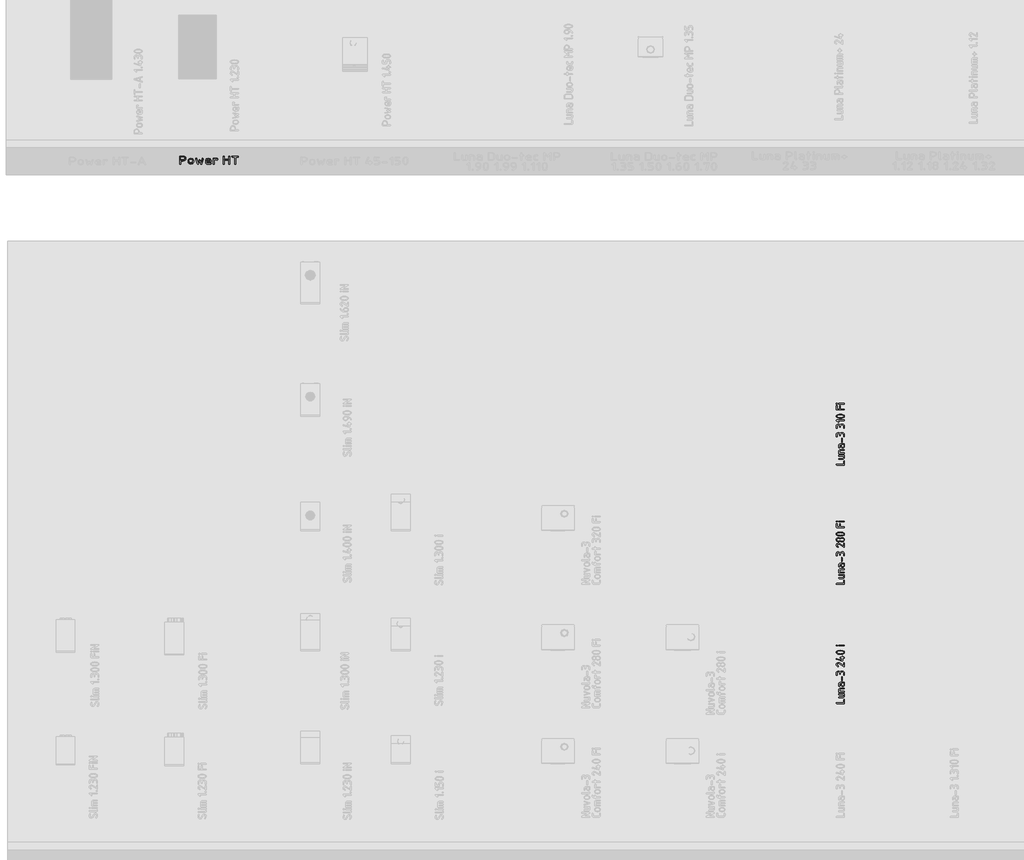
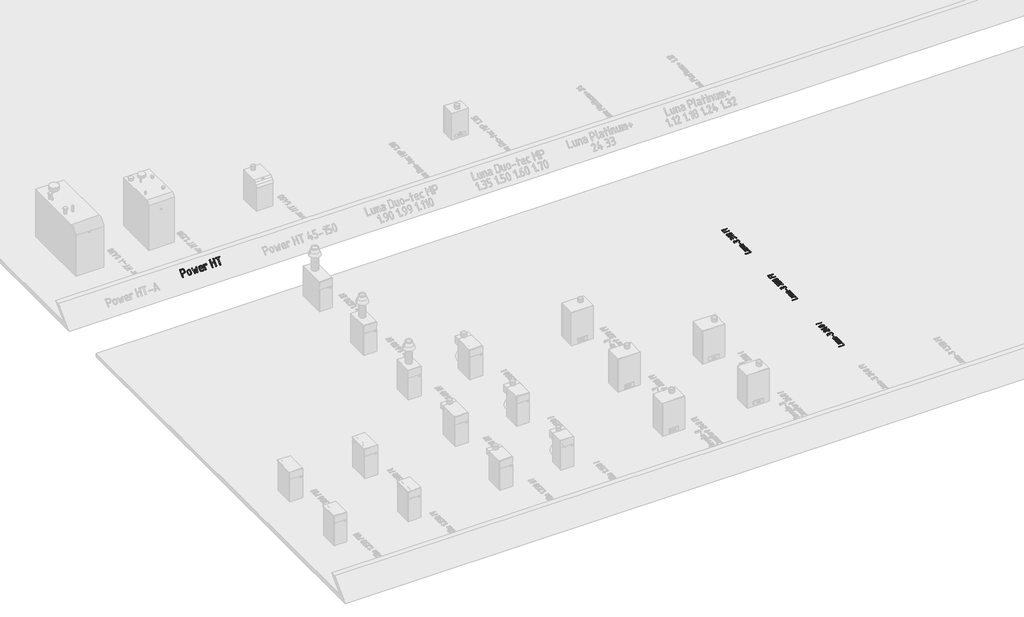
# One storey, part 12 of 37: 4 proxies.
"""IFC4 building model written with IfcOpenShell, lengths in millimetres."""

from ifc_helpers import new_model, si_unit, frame, origin, origin_with_axes, place, context, project, spatial, polyline, outline, extrude, element, save

model = new_model("IFC4")

# Units and contexts
model_context = context("Model", 3, world=origin())
ifc_project = project(units=[si_unit("LENGTHUNIT", "METRE", prefix="MILLI")], contexts=[model_context])

# Site, building, storey
site = spatial("IfcSite", under=ifc_project)
building = spatial("IfcBuilding", under=site)
storey = spatial("IfcBuildingStorey", under=building, Name="01_Стартовый вид_Площадка", Elevation=0.0)

# Proxies
placement = place(None, origin())
element("IfcBuildingElementProxy", 1, Name="150 мм", ObjectType="150 мм", at=placement, inside=storey, context=model_context, shape_type="SweptSolid", body=[
    extrude(outline(polyline([(13086.8818775, -15038.8871108), (13081.2187379, -15036.9694339), (13079.3310247, -15031.2164032), (13081.20875, -15025.4633725), (13086.8419259, -15023.5456956), (13214.846859, -15023.5456956), (13214.846859, -14971.0492905), (13216.7645359, -14965.4161146), (13222.5175666, -14963.5383893), (13228.2705973, -14965.4161146), (13230.1882742, -14971.0492905), (13230.1882742, -15031.2164032), (13228.300561, -15036.9694339), (13222.6374214, -15038.8871108), (13086.8818775, -15038.8871108)])), origin_with_axes(), (0.0, 0.0, 1.0), 10.0),
    extrude(outline(polyline([(13132.8262199, -14859.9039335), (13222.7173246, -14859.9039335), (13228.3205368, -14861.761683), (13230.1882742, -14867.3349315), (13230.1882742, -14904.4100182), (13228.0208998, -14915.9060917), (13221.5187765, -14925.4645125), (13211.8604767, -14931.9067083), (13200.2245726, -14934.0541069), (13132.8262199, -14934.0541069), (13127.2230077, -14932.13643), (13125.3552703, -14926.3833993), (13127.2230077, -14920.6303686), (13132.8262199, -14918.7126917), (13199.9449114, -14918.7126917), (13210.4322069, -14914.4378703), (13214.846859, -14904.2102602), (13214.846859, -14875.2453487), (13132.8262199, -14875.2453487), (13127.2230077, -14873.3276718), (13125.3552703, -14867.5746411), (13127.2230077, -14861.8216104), (13132.8262199, -14859.9039335)])), origin_with_axes(), (0.0, 0.0, 1.0), 10.0),
    extrude(outline(polyline([(13222.7173246, -14829.2211031), (13132.8262199, -14829.2211031), (13127.2230077, -14827.3633536), (13125.3552703, -14821.7901051), (13125.3552703, -14784.7150184), (13127.5226447, -14773.2189449), (13134.024768, -14763.6605241), (13143.6830678, -14757.2183282), (13155.3189719, -14755.0709296), (13222.7173246, -14755.0709296), (13228.3205368, -14756.9886065), (13230.1882742, -14762.7416372), (13228.3205368, -14768.4946679), (13222.7173246, -14770.4123448), (13155.5986331, -14770.4123448), (13144.9914827, -14774.5872872), (13140.6966855, -14784.9147764), (13140.6966855, -14813.8796879), (13222.7173246, -14813.8796879), (13228.3205368, -14815.7973648), (13230.1882742, -14821.5503955), (13228.3205368, -14827.3034262), (13222.7173246, -14829.2211031)])), origin_with_axes(), (0.0, 0.0, 1.0), 10.0),
    extrude(outline(polyline([(13230.1882742, -14695.5829941), (13227.9659663, -14707.1989224), (13221.2990427, -14716.877198), (13211.4060272, -14723.409285), (13199.5054438, -14725.5866473), (13184.0441738, -14721.5914871), (13172.6280035, -14710.8345182), (13168.8226134, -14695.5829941), (13168.8226134, -14665.579341), (13154.7596494, -14665.579341), (13144.7517731, -14669.894114), (13140.6966855, -14680.5611918), (13140.6966855, -14710.5648449), (13138.7790086, -14716.1980208), (13133.0259779, -14718.0757461), (13127.2729472, -14716.1980208), (13125.3552703, -14710.5648449), (13125.3552703, -14680.5611918), (13127.5226447, -14668.8803421), (13134.024768, -14659.0872056), (13143.6830678, -14652.4502457), (13155.3189719, -14650.2379258), (13222.7173246, -14650.2379258), (13228.3205368, -14652.1556027), (13230.1882742, -14657.9086334), (13230.1882742, -14695.5829941)]), holes=[polyline([(13184.1640286, -14665.579341), (13184.1640286, -14695.5829941), (13188.638608, -14706.1901445), (13199.5054438, -14710.5648449), (13210.3123521, -14706.1302171), (13214.846859, -14695.5829941), (13214.846859, -14665.579341), (13184.1640286, -14665.579341)])]), origin_with_axes(), (0.0, 0.0, 1.0), 10.0),
    extrude(outline(polyline([(13191.8347362, -14552.3964523), (13191.8347362, -14612.4037586), (13189.9170593, -14618.0369345), (13184.1640286, -14619.9146598), (13178.4109979, -14618.0369345), (13176.493321, -14612.4037586), (13176.493321, -14552.3964523), (13178.4109979, -14546.7632764), (13184.1640286, -14544.8855511), (13189.9170593, -14546.7632764), (13191.8347362, -14552.3964523)])), origin_with_axes(), (0.0, 0.0, 1.0), 10.0),
    extrude(outline(polyline([(13156.0381007, -14478.4060852), (13156.0381007, -14493.387936), (13154.1204238, -14499.0211119), (13148.3673931, -14500.8988372), (13142.6143624, -14499.0211119), (13140.6966855, -14493.387936), (13140.6966855, -14478.4060852), (13139.0237122, -14469.7016299), (13134.0047922, -14462.4454202), (13126.5787881, -14457.546355), (13117.6845627, -14455.9133333), (13108.8402768, -14457.5613369), (13101.4042849, -14462.5053476), (13096.3554012, -14469.7765392), (13094.6724399, -14478.4060852), (13094.6724399, -14508.4097384), (13092.754763, -14514.0429143), (13087.0017323, -14515.9206396), (13081.2487016, -14514.0429143), (13079.3310247, -14508.4097384), (13079.3310247, -14478.4060852), (13082.1476127, -14463.9386113), (13090.5973765, -14451.6984393), (13103.002349, -14443.3535484), (13117.6845627, -14440.5719181), (13134.8837274, -14444.3273687), (13148.3673931, -14455.5937205), (13161.4415549, -14444.3273687), (13178.1313367, -14440.5719181), (13192.9933326, -14440.5719181), (13207.3059941, -14443.3685302), (13219.3214384, -14451.7583667), (13227.4715652, -14464.0135206), (13230.1882742, -14478.4060852), (13230.1882742, -14508.4097384), (13228.2705973, -14514.0429143), (13222.5175666, -14515.9206396), (13216.7645359, -14514.0429143), (13214.846859, -14508.4097384), (13214.846859, -14478.4060852), (13213.2438009, -14469.7016299), (13208.4346268, -14462.4454202), (13201.3182477, -14457.546355), (13192.7935746, -14455.9133333), (13178.0913851, -14455.9133333), (13169.6166515, -14457.5613369), (13162.4902844, -14462.5053476), (13157.6511466, -14469.7765392), (13156.0381007, -14478.4060852)])), origin_with_axes(), (0.0, 0.0, 1.0), 10.0),
    extrude(outline(polyline([(13079.3310247, -14321.5960471), (13082.0826913, -14307.1685248), (13090.3376911, -14295.0482075), (13102.49796, -14286.8231714), (13116.9654339, -14284.0814927), (13127.7623543, -14285.7894237), (13138.6591538, -14290.9132167), (13214.846859, -14338.175962), (13214.846859, -14291.5923939), (13216.7645359, -14285.959218), (13222.5175666, -14284.0814927), (13228.2705973, -14285.959218), (13230.1882742, -14291.5923939), (13230.1882742, -14351.5997002), (13228.3105489, -14357.2328761), (13222.677373, -14359.1106014), (13218.3226484, -14357.8321502), (13129.7099949, -14302.8587457), (13117.2450951, -14299.1032951), (13108.5805914, -14300.7512987), (13101.2844301, -14305.6953095), (13096.3254375, -14312.966501), (13094.6724399, -14321.5960471), (13099.386729, -14333.8312252), (13113.5295961, -14345.1275407), (13117.1651919, -14351.5997002), (13115.2874666, -14357.2328761), (13109.6542907, -14359.1106014), (13106.5780173, -14358.3914726), (13086.1427729, -14342.2210617), (13081.0339618, -14332.4653798), (13079.3310247, -14321.5960471)])), origin_with_axes(), (0.0, 0.0, 1.0), 10.0),
    extrude(outline(polyline([(13191.9945426, -14255.3163392), (13189.9570109, -14255.0766296), (13084.8043942, -14225.0729765), (13080.6993671, -14222.4561465), (13079.3310247, -14217.8017849), (13081.1987621, -14212.168609), (13086.8019743, -14210.2908837), (13088.9593608, -14210.6504481), (13184.1640286, -14237.8974407), (13184.1640286, -14202.7799825), (13161.631325, -14202.7799825), (13156.0281128, -14200.8623056), (13154.1603754, -14195.1092749), (13156.0281128, -14189.3562442), (13161.631325, -14187.4385673), (13184.1640286, -14187.4385673), (13184.1640286, -14172.4167649), (13186.0817055, -14166.8135527), (13191.8347362, -14164.9458153), (13197.5877669, -14166.8135527), (13199.5054438, -14172.4167649), (13199.5054438, -14187.4385673), (13222.5175666, -14187.4385673), (13228.2705973, -14189.3562442), (13230.1882742, -14195.1092749), (13228.2705973, -14200.8623056), (13222.5175666, -14202.7799825), (13199.5054438, -14202.7799825), (13199.5054438, -14247.8054381), (13197.6277185, -14253.4386139), (13191.9945426, -14255.3163392)])), origin_with_axes(), (0.0, 0.0, 1.0), 10.0),
    extrude(outline(polyline([(13154.7596494, -14059.5934407), (13179.8991951, -14061.2214685), (13201.3831691, -14066.1055518), (13222.9869979, -14078.5205122), (13228.3879551, -14086.8778879), (13230.1882742, -14096.6685274), (13228.395446, -14106.4591669), (13223.0169616, -14114.8165426), (13201.5030239, -14127.231503), (13179.9890862, -14132.1155863), (13154.7596494, -14133.7436141), (13129.5302127, -14132.1155863), (13108.016275, -14127.231503), (13086.5023373, -14114.8165426), (13081.1238529, -14106.4591669), (13079.3310247, -14096.6685274), (13081.1313438, -14086.8778879), (13086.532301, -14078.5205122), (13108.1361298, -14066.1055518), (13129.6201038, -14061.2214685), (13154.7596494, -14059.5934407)]), holes=[polyline([(13154.7596494, -14074.9348559), (13119.6022396, -14078.7702097), (13100.9048898, -14086.1612561), (13094.6724399, -14096.6685274), (13100.9348535, -14107.0859076), (13119.7220944, -14114.4469903), (13154.7596494, -14118.4021989), (13189.9170593, -14114.5668451), (13208.614409, -14107.1757987), (13214.846859, -14096.6685274), (13208.614409, -14086.1612561), (13189.9170593, -14078.7702097), (13154.7596494, -14074.9348559)])]), origin_with_axes(), (0.0, 0.0, 1.0), 10.0),
    extrude(outline(polyline([(13094.3528271, -13977.7725596), (13086.8419259, -13977.7725596), (13081.20875, -13975.8548827), (13079.3310247, -13970.101852), (13081.20875, -13964.3488213), (13086.8419259, -13962.4311444), (13094.3528271, -13962.4311444), (13099.986003, -13964.3488213), (13101.8637283, -13970.101852), (13099.986003, -13975.8548827), (13094.3528271, -13977.7725596)])), origin_with_axes(), (0.0, 0.0, 1.0), 10.0),
    extrude(outline(polyline([(13132.6664135, -13977.7725596), (13127.0632013, -13975.8548827), (13125.1954639, -13970.101852), (13127.0632013, -13964.3488213), (13132.6664135, -13962.4311444), (13222.677373, -13962.4311444), (13228.3105489, -13964.3488213), (13230.1882742, -13970.101852), (13228.3105489, -13975.8548827), (13222.677373, -13977.7725596), (13132.6664135, -13977.7725596)])), origin_with_axes(), (0.0, 0.0, 1.0), 10.0),
])
element("IfcBuildingElementProxy", 2, Name="150 мм", ObjectType="150 мм", at=placement, inside=storey, context=model_context, shape_type="SweptSolid", body=[
    extrude(outline(polyline([(13086.8818775, -12838.8871108), (13081.2187379, -12836.9694339), (13079.3310247, -12831.2164032), (13081.20875, -12825.4633725), (13086.8419259, -12823.5456956), (13214.846859, -12823.5456956), (13214.846859, -12771.0492905), (13216.7645359, -12765.4161146), (13222.5175666, -12763.5383893), (13228.2705973, -12765.4161146), (13230.1882742, -12771.0492905), (13230.1882742, -12831.2164032), (13228.300561, -12836.9694339), (13222.6374214, -12838.8871108), (13086.8818775, -12838.8871108)])), origin_with_axes(), (0.0, 0.0, 1.0), 10.0),
    extrude(outline(polyline([(13132.8262199, -12659.9039335), (13222.7173246, -12659.9039335), (13228.3205368, -12661.761683), (13230.1882742, -12667.3349315), (13230.1882742, -12704.4100182), (13228.0208998, -12715.9060917), (13221.5187765, -12725.4645125), (13211.8604767, -12731.9067083), (13200.2245726, -12734.0541069), (13132.8262199, -12734.0541069), (13127.2230077, -12732.13643), (13125.3552703, -12726.3833993), (13127.2230077, -12720.6303686), (13132.8262199, -12718.7126917), (13199.9449114, -12718.7126917), (13210.4322069, -12714.4378703), (13214.846859, -12704.2102602), (13214.846859, -12675.2453487), (13132.8262199, -12675.2453487), (13127.2230077, -12673.3276718), (13125.3552703, -12667.5746411), (13127.2230077, -12661.8216104), (13132.8262199, -12659.9039335)])), origin_with_axes(), (0.0, 0.0, 1.0), 10.0),
    extrude(outline(polyline([(13222.7173246, -12629.2211031), (13132.8262199, -12629.2211031), (13127.2230077, -12627.3633536), (13125.3552703, -12621.7901051), (13125.3552703, -12584.7150184), (13127.5226447, -12573.2189449), (13134.024768, -12563.6605241), (13143.6830678, -12557.2183282), (13155.3189719, -12555.0709296), (13222.7173246, -12555.0709296), (13228.3205368, -12556.9886065), (13230.1882742, -12562.7416372), (13228.3205368, -12568.4946679), (13222.7173246, -12570.4123448), (13155.5986331, -12570.4123448), (13144.9914827, -12574.5872872), (13140.6966855, -12584.9147764), (13140.6966855, -12613.8796879), (13222.7173246, -12613.8796879), (13228.3205368, -12615.7973648), (13230.1882742, -12621.5503955), (13228.3205368, -12627.3034262), (13222.7173246, -12629.2211031)])), origin_with_axes(), (0.0, 0.0, 1.0), 10.0),
    extrude(outline(polyline([(13230.1882742, -12495.5829941), (13227.9659663, -12507.1989224), (13221.2990427, -12516.877198), (13211.4060272, -12523.409285), (13199.5054438, -12525.5866473), (13184.0441738, -12521.5914871), (13172.6280035, -12510.8345182), (13168.8226134, -12495.5829941), (13168.8226134, -12465.579341), (13154.7596494, -12465.579341), (13144.7517731, -12469.894114), (13140.6966855, -12480.5611918), (13140.6966855, -12510.5648449), (13138.7790086, -12516.1980208), (13133.0259779, -12518.0757461), (13127.2729472, -12516.1980208), (13125.3552703, -12510.5648449), (13125.3552703, -12480.5611918), (13127.5226447, -12468.8803421), (13134.024768, -12459.0872056), (13143.6830678, -12452.4502457), (13155.3189719, -12450.2379258), (13222.7173246, -12450.2379258), (13228.3205368, -12452.1556027), (13230.1882742, -12457.9086334), (13230.1882742, -12495.5829941)]), holes=[polyline([(13184.1640286, -12465.579341), (13184.1640286, -12495.5829941), (13188.638608, -12506.1901445), (13199.5054438, -12510.5648449), (13210.3123521, -12506.1302171), (13214.846859, -12495.5829941), (13214.846859, -12465.579341), (13184.1640286, -12465.579341)])]), origin_with_axes(), (0.0, 0.0, 1.0), 10.0),
    extrude(outline(polyline([(13191.8347362, -12352.3964523), (13191.8347362, -12412.4037586), (13189.9170593, -12418.0369345), (13184.1640286, -12419.9146598), (13178.4109979, -12418.0369345), (13176.493321, -12412.4037586), (13176.493321, -12352.3964523), (13178.4109979, -12346.7632764), (13184.1640286, -12344.8855511), (13189.9170593, -12346.7632764), (13191.8347362, -12352.3964523)])), origin_with_axes(), (0.0, 0.0, 1.0), 10.0),
    extrude(outline(polyline([(13156.0381007, -12278.4060852), (13156.0381007, -12293.387936), (13154.1204238, -12299.0211119), (13148.3673931, -12300.8988372), (13142.6143624, -12299.0211119), (13140.6966855, -12293.387936), (13140.6966855, -12278.4060852), (13139.0237122, -12269.7016299), (13134.0047922, -12262.4454202), (13126.5787881, -12257.546355), (13117.6845627, -12255.9133333), (13108.8402768, -12257.5613369), (13101.4042849, -12262.5053476), (13096.3554012, -12269.7765392), (13094.6724399, -12278.4060852), (13094.6724399, -12308.4097384), (13092.754763, -12314.0429143), (13087.0017323, -12315.9206396), (13081.2487016, -12314.0429143), (13079.3310247, -12308.4097384), (13079.3310247, -12278.4060852), (13082.1476127, -12263.9386113), (13090.5973765, -12251.6984393), (13103.002349, -12243.3535484), (13117.6845627, -12240.5719181), (13134.8837274, -12244.3273687), (13148.3673931, -12255.5937205), (13161.4415549, -12244.3273687), (13178.1313367, -12240.5719181), (13192.9933326, -12240.5719181), (13207.3059941, -12243.3685302), (13219.3214384, -12251.7583667), (13227.4715652, -12264.0135206), (13230.1882742, -12278.4060852), (13230.1882742, -12308.4097384), (13228.2705973, -12314.0429143), (13222.5175666, -12315.9206396), (13216.7645359, -12314.0429143), (13214.846859, -12308.4097384), (13214.846859, -12278.4060852), (13213.2438009, -12269.7016299), (13208.4346268, -12262.4454202), (13201.3182477, -12257.546355), (13192.7935746, -12255.9133333), (13178.0913851, -12255.9133333), (13169.6166515, -12257.5613369), (13162.4902844, -12262.5053476), (13157.6511466, -12269.7765392), (13156.0381007, -12278.4060852)])), origin_with_axes(), (0.0, 0.0, 1.0), 10.0),
    extrude(outline(polyline([(13079.3310247, -12121.5960471), (13082.0826913, -12107.1685248), (13090.3376911, -12095.0482075), (13102.49796, -12086.8231714), (13116.9654339, -12084.0814927), (13127.7623543, -12085.7894237), (13138.6591538, -12090.9132167), (13214.846859, -12138.175962), (13214.846859, -12091.5923939), (13216.7645359, -12085.959218), (13222.5175666, -12084.0814927), (13228.2705973, -12085.959218), (13230.1882742, -12091.5923939), (13230.1882742, -12151.5997002), (13228.3105489, -12157.2328761), (13222.677373, -12159.1106014), (13218.3226484, -12157.8321502), (13129.7099949, -12102.8587457), (13117.2450951, -12099.1032951), (13108.5805914, -12100.7512987), (13101.2844301, -12105.6953095), (13096.3254375, -12112.966501), (13094.6724399, -12121.5960471), (13099.386729, -12133.8312252), (13113.5295961, -12145.1275407), (13117.1651919, -12151.5997002), (13115.2874666, -12157.2328761), (13109.6542907, -12159.1106014), (13106.5780173, -12158.3914726), (13086.1427729, -12142.2210617), (13081.0339618, -12132.4653798), (13079.3310247, -12121.5960471)])), origin_with_axes(), (0.0, 0.0, 1.0), 10.0),
    extrude(outline(polyline([(13230.1882742, -12016.8429464), (13227.4316136, -12031.0906865), (13219.161632, -12043.0711732), (13206.9763934, -12051.2063182), (13192.4739618, -12053.9180332), (13177.3722562, -12053.9180332), (13160.4627406, -12050.0826794), (13147.2087967, -12038.576618), (13133.9548527, -12050.0826794), (13117.0453371, -12053.9180332), (13102.5429055, -12051.2063182), (13090.3576669, -12043.0711732), (13082.0876853, -12031.0906865), (13079.3310247, -12016.8429464), (13082.0876853, -12002.5952064), (13090.3576669, -11990.6147197), (13102.5429055, -11982.4795747), (13117.0453371, -11979.7678597), (13133.9548527, -11983.6032135), (13147.2087967, -11995.1092749), (13156.3876772, -11986.8592691), (13167.4642589, -11982.3247622), (13192.4739618, -11979.7678597), (13206.9763934, -11982.4795747), (13219.161632, -11990.6147197), (13227.4316136, -12002.5952064), (13230.1882742, -12016.8429464)]), holes=[polyline([(13140.1773147, -12016.8429464), (13138.544293, -12008.4331342), (13133.6452277, -12001.421628), (13126.389018, -11996.6873632), (13117.6845627, -11995.1092749), (13109.0550167, -11996.702345), (13101.7838251, -12001.4815554), (13096.8398143, -12008.5080435), (13095.1918108, -12016.8429464), (13096.8248325, -12025.2527587), (13101.7238977, -12032.2642648), (13108.9801074, -12036.9985297), (13117.6845627, -12038.576618), (13126.389018, -12036.9985297), (13133.6452277, -12032.2642648), (13138.544293, -12025.2527587), (13140.1773147, -12016.8429464)]), polyline([(13214.846859, -12016.8429464), (13213.2088433, -12008.4331342), (13208.2947962, -12001.421628), (13201.0236047, -11996.6873632), (13192.3141554, -11995.1092749), (13177.3323046, -11995.1092749), (13168.7027586, -11996.702345), (13161.431567, -12001.4815554), (13156.4875562, -12008.5080435), (13154.8395527, -12016.8429464), (13156.4725744, -12025.2527587), (13161.3716396, -12032.2642648), (13168.6278493, -12036.9985297), (13177.3323046, -12038.576618), (13192.3141554, -12038.576618), (13201.0236047, -12036.9985297), (13208.2947962, -12032.2642648), (13213.2088433, -12025.2527587), (13214.846859, -12016.8429464)])]), origin_with_axes(), (0.0, 0.0, 1.0), 10.0),
    extrude(outline(polyline([(13154.7596494, -11874.9348559), (13179.8991951, -11876.5628837), (13201.3831691, -11881.446967), (13222.9869979, -11893.8619274), (13228.3879551, -11902.2193031), (13230.1882742, -11912.0099426), (13228.395446, -11921.8005821), (13223.0169616, -11930.1579578), (13201.5030239, -11942.5729182), (13179.9890862, -11947.4570015), (13154.7596494, -11949.0850293), (13129.5302127, -11947.4570015), (13108.016275, -11942.5729182), (13086.5023373, -11930.1579578), (13081.1238529, -11921.8005821), (13079.3310247, -11912.0099426), (13081.1313438, -11902.2193031), (13086.532301, -11893.8619274), (13108.1361298, -11881.446967), (13129.6201038, -11876.5628837), (13154.7596494, -11874.9348559)]), holes=[polyline([(13154.7596494, -11890.2762711), (13119.6022396, -11894.1116249), (13100.9048898, -11901.5026712), (13094.6724399, -11912.0099426), (13100.9348535, -11922.4273228), (13119.7220944, -11929.7884055), (13154.7596494, -11933.7436141), (13189.9170593, -11929.9082603), (13208.614409, -11922.5172139), (13214.846859, -11912.0099426), (13208.614409, -11901.5026712), (13189.9170593, -11894.1116249), (13154.7596494, -11890.2762711)])]), origin_with_axes(), (0.0, 0.0, 1.0), 10.0),
    extrude(outline(polyline([(13222.6374214, -11793.1139748), (13086.8818775, -11793.1139748), (13081.2187379, -11791.1962979), (13079.3310247, -11785.4432672), (13079.3310247, -11725.2761545), (13081.2487016, -11719.6429786), (13087.0017323, -11717.7652533), (13092.754763, -11719.6429786), (13094.6724399, -11725.2761545), (13094.6724399, -11777.7725596), (13140.6966855, -11777.7725596), (13140.6966855, -11725.2761545), (13142.6143624, -11719.6429786), (13148.3673931, -11717.7652533), (13154.1204238, -11719.6429786), (13156.0381007, -11725.2761545), (13156.0381007, -11777.7725596), (13222.7572762, -11777.7725596), (13228.3305247, -11779.6902365), (13230.1882742, -11785.4432672), (13228.300561, -11791.1962979), (13222.6374214, -11793.1139748)])), origin_with_axes(), (0.0, 0.0, 1.0), 10.0),
    extrude(outline(polyline([(13094.3528271, -11688.280971), (13086.8419259, -11688.280971), (13081.20875, -11686.3632941), (13079.3310247, -11680.6102634), (13081.20875, -11674.8572327), (13086.8419259, -11672.9395558), (13094.3528271, -11672.9395558), (13099.986003, -11674.8572327), (13101.8637283, -11680.6102634), (13099.986003, -11686.3632941), (13094.3528271, -11688.280971)])), origin_with_axes(), (0.0, 0.0, 1.0), 10.0),
    extrude(outline(polyline([(13132.6664135, -11688.280971), (13127.0632013, -11686.3632941), (13125.1954639, -11680.6102634), (13127.0632013, -11674.8572327), (13132.6664135, -11672.9395558), (13222.677373, -11672.9395558), (13228.3105489, -11674.8572327), (13230.1882742, -11680.6102634), (13228.3105489, -11686.3632941), (13222.677373, -11688.280971), (13132.6664135, -11688.280971)])), origin_with_axes(), (0.0, 0.0, 1.0), 10.0),
])
element("IfcBuildingElementProxy", 3, Name="150 мм", ObjectType="150 мм", at=placement, inside=storey, context=model_context, shape_type="SweptSolid", body=[
    extrude(outline(polyline([(13086.8818775, -10638.8871108), (13081.2187379, -10636.9694339), (13079.3310247, -10631.2164032), (13081.20875, -10625.4633725), (13086.8419259, -10623.5456956), (13214.846859, -10623.5456956), (13214.846859, -10571.0492905), (13216.7645359, -10565.4161146), (13222.5175666, -10563.5383893), (13228.2705973, -10565.4161146), (13230.1882742, -10571.0492905), (13230.1882742, -10631.2164032), (13228.300561, -10636.9694339), (13222.6374214, -10638.8871108), (13086.8818775, -10638.8871108)])), origin_with_axes(), (0.0, 0.0, 1.0), 10.0),
    extrude(outline(polyline([(13132.8262199, -10459.9039335), (13222.7173246, -10459.9039335), (13228.3205368, -10461.761683), (13230.1882742, -10467.3349315), (13230.1882742, -10504.4100182), (13228.0208998, -10515.9060917), (13221.5187765, -10525.4645125), (13211.8604767, -10531.9067083), (13200.2245726, -10534.0541069), (13132.8262199, -10534.0541069), (13127.2230077, -10532.13643), (13125.3552703, -10526.3833993), (13127.2230077, -10520.6303686), (13132.8262199, -10518.7126917), (13199.9449114, -10518.7126917), (13210.4322069, -10514.4378703), (13214.846859, -10504.2102602), (13214.846859, -10475.2453487), (13132.8262199, -10475.2453487), (13127.2230077, -10473.3276718), (13125.3552703, -10467.5746411), (13127.2230077, -10461.8216104), (13132.8262199, -10459.9039335)])), origin_with_axes(), (0.0, 0.0, 1.0), 10.0),
    extrude(outline(polyline([(13222.7173246, -10429.2211031), (13132.8262199, -10429.2211031), (13127.2230077, -10427.3633536), (13125.3552703, -10421.7901051), (13125.3552703, -10384.7150184), (13127.5226447, -10373.2189449), (13134.024768, -10363.6605241), (13143.6830678, -10357.2183282), (13155.3189719, -10355.0709296), (13222.7173246, -10355.0709296), (13228.3205368, -10356.9886065), (13230.1882742, -10362.7416372), (13228.3205368, -10368.4946679), (13222.7173246, -10370.4123448), (13155.5986331, -10370.4123448), (13144.9914827, -10374.5872872), (13140.6966855, -10384.9147764), (13140.6966855, -10413.8796879), (13222.7173246, -10413.8796879), (13228.3205368, -10415.7973648), (13230.1882742, -10421.5503955), (13228.3205368, -10427.3034262), (13222.7173246, -10429.2211031)])), origin_with_axes(), (0.0, 0.0, 1.0), 10.0),
    extrude(outline(polyline([(13230.1882742, -10295.5829941), (13227.9659663, -10307.1989224), (13221.2990427, -10316.877198), (13211.4060272, -10323.409285), (13199.5054438, -10325.5866473), (13184.0441738, -10321.5914871), (13172.6280035, -10310.8345182), (13168.8226134, -10295.5829941), (13168.8226134, -10265.579341), (13154.7596494, -10265.579341), (13144.7517731, -10269.894114), (13140.6966855, -10280.5611918), (13140.6966855, -10310.5648449), (13138.7790086, -10316.1980208), (13133.0259779, -10318.0757461), (13127.2729472, -10316.1980208), (13125.3552703, -10310.5648449), (13125.3552703, -10280.5611918), (13127.5226447, -10268.8803421), (13134.024768, -10259.0872056), (13143.6830678, -10252.4502457), (13155.3189719, -10250.2379258), (13222.7173246, -10250.2379258), (13228.3205368, -10252.1556027), (13230.1882742, -10257.9086334), (13230.1882742, -10295.5829941)]), holes=[polyline([(13184.1640286, -10265.579341), (13184.1640286, -10295.5829941), (13188.638608, -10306.1901445), (13199.5054438, -10310.5648449), (13210.3123521, -10306.1302171), (13214.846859, -10295.5829941), (13214.846859, -10265.579341), (13184.1640286, -10265.579341)])]), origin_with_axes(), (0.0, 0.0, 1.0), 10.0),
    extrude(outline(polyline([(13191.8347362, -10152.3964523), (13191.8347362, -10212.4037586), (13189.9170593, -10218.0369345), (13184.1640286, -10219.9146598), (13178.4109979, -10218.0369345), (13176.493321, -10212.4037586), (13176.493321, -10152.3964523), (13178.4109979, -10146.7632764), (13184.1640286, -10144.8855511), (13189.9170593, -10146.7632764), (13191.8347362, -10152.3964523)])), origin_with_axes(), (0.0, 0.0, 1.0), 10.0),
    extrude(outline(polyline([(13156.0381007, -10078.4060852), (13156.0381007, -10093.387936), (13154.1204238, -10099.0211119), (13148.3673931, -10100.8988372), (13142.6143624, -10099.0211119), (13140.6966855, -10093.387936), (13140.6966855, -10078.4060852), (13139.0237122, -10069.7016299), (13134.0047922, -10062.4454202), (13126.5787881, -10057.546355), (13117.6845627, -10055.9133333), (13108.8402768, -10057.5613369), (13101.4042849, -10062.5053476), (13096.3554012, -10069.7765392), (13094.6724399, -10078.4060852), (13094.6724399, -10108.4097384), (13092.754763, -10114.0429143), (13087.0017323, -10115.9206396), (13081.2487016, -10114.0429143), (13079.3310247, -10108.4097384), (13079.3310247, -10078.4060852), (13082.1476127, -10063.9386113), (13090.5973765, -10051.6984393), (13103.002349, -10043.3535484), (13117.6845627, -10040.5719181), (13134.8837274, -10044.3273687), (13148.3673931, -10055.5937205), (13161.4415549, -10044.3273687), (13178.1313367, -10040.5719181), (13192.9933326, -10040.5719181), (13207.3059941, -10043.3685302), (13219.3214384, -10051.7583667), (13227.4715652, -10064.0135206), (13230.1882742, -10078.4060852), (13230.1882742, -10108.4097384), (13228.2705973, -10114.0429143), (13222.5175666, -10115.9206396), (13216.7645359, -10114.0429143), (13214.846859, -10108.4097384), (13214.846859, -10078.4060852), (13213.2438009, -10069.7016299), (13208.4346268, -10062.4454202), (13201.3182477, -10057.546355), (13192.7935746, -10055.9133333), (13178.0913851, -10055.9133333), (13169.6166515, -10057.5613369), (13162.4902844, -10062.5053476), (13157.6511466, -10069.7765392), (13156.0381007, -10078.4060852)])), origin_with_axes(), (0.0, 0.0, 1.0), 10.0),
    extrude(outline(polyline([(13156.0381007, -9922.4350307), (13156.0381007, -9937.4168815), (13154.1204238, -9943.0500574), (13148.3673931, -9944.9277827), (13142.6143624, -9943.0500574), (13140.6966855, -9937.4168815), (13140.6966855, -9922.4350307), (13139.0237122, -9913.7305754), (13134.0047922, -9906.4743657), (13126.5787881, -9901.5753005), (13117.6845627, -9899.9422788), (13108.8402768, -9901.5902823), (13101.4042849, -9906.5342931), (13096.3554012, -9913.8054847), (13094.6724399, -9922.4350307), (13094.6724399, -9952.4386839), (13092.754763, -9958.0718598), (13087.0017323, -9959.9495851), (13081.2487016, -9958.0718598), (13079.3310247, -9952.4386839), (13079.3310247, -9922.4350307), (13082.1476127, -9907.9675568), (13090.5973765, -9895.7273847), (13103.002349, -9887.3824939), (13117.6845627, -9884.6008636), (13134.8837274, -9888.3563142), (13148.3673931, -9899.6226659), (13161.4415549, -9888.3563142), (13178.1313367, -9884.6008636), (13192.9933326, -9884.6008636), (13207.3059941, -9887.3974757), (13219.3214384, -9895.7873121), (13227.4715652, -9908.0424661), (13230.1882742, -9922.4350307), (13230.1882742, -9952.4386839), (13228.2705973, -9958.0718598), (13222.5175666, -9959.9495851), (13216.7645359, -9958.0718598), (13214.846859, -9952.4386839), (13214.846859, -9922.4350307), (13213.2438009, -9913.7305754), (13208.4346268, -9906.4743657), (13201.3182477, -9901.5753005), (13192.7935746, -9899.9422788), (13178.0913851, -9899.9422788), (13169.6166515, -9901.5902823), (13162.4902844, -9906.5342931), (13157.6511466, -9913.8054847), (13156.0381007, -9922.4350307)])), origin_with_axes(), (0.0, 0.0, 1.0), 10.0),
    extrude(outline(polyline([(13105.0598565, -9823.2352028), (13122.3589002, -9840.4942949), (13124.5162867, -9845.7279547), (13122.6385614, -9851.3611306), (13117.0053855, -9853.2388559), (13111.7717256, -9851.0415178), (13082.2874433, -9821.7170419), (13079.3310247, -9815.5644952), (13081.2187379, -9809.8114645), (13086.8818775, -9807.8937876), (13222.6374214, -9807.8937876), (13228.300561, -9809.8114645), (13230.1882742, -9815.5644952), (13228.300561, -9821.3175259), (13222.6374214, -9823.2352028), (13105.0598565, -9823.2352028)])), origin_with_axes(), (0.0, 0.0, 1.0), 10.0),
    extrude(outline(polyline([(13154.7596494, -9703.0607837), (13179.8991951, -9704.6888115), (13201.3831691, -9709.5728949), (13222.9869979, -9721.9878552), (13228.3879551, -9730.345231), (13230.1882742, -9740.1358705), (13228.395446, -9749.9265099), (13223.0169616, -9758.2838857), (13201.5030239, -9770.698846), (13179.9890862, -9775.5829294), (13154.7596494, -9777.2109572), (13129.5302127, -9775.5829294), (13108.016275, -9770.698846), (13086.5023373, -9758.2838857), (13081.1238529, -9749.9265099), (13079.3310247, -9740.1358705), (13081.1313438, -9730.345231), (13086.532301, -9721.9878552), (13108.1361298, -9709.5728949), (13129.6201038, -9704.6888115), (13154.7596494, -9703.0607837)]), holes=[polyline([(13154.7596494, -9718.4021989), (13119.6022396, -9722.2375527), (13100.9048898, -9729.6285991), (13094.6724399, -9740.1358705), (13100.9348535, -9750.5532507), (13119.7220944, -9757.9143334), (13154.7596494, -9761.869542), (13189.9170593, -9758.0341882), (13208.614409, -9750.6431418), (13214.846859, -9740.1358705), (13208.614409, -9729.6285991), (13189.9170593, -9722.2375527), (13154.7596494, -9718.4021989)])]), origin_with_axes(), (0.0, 0.0, 1.0), 10.0),
    extrude(outline(polyline([(13222.6374214, -9621.2399027), (13086.8818775, -9621.2399027), (13081.2187379, -9619.3222258), (13079.3310247, -9613.5691951), (13079.3310247, -9553.4020823), (13081.2487016, -9547.7689065), (13087.0017323, -9545.8911812), (13092.754763, -9547.7689065), (13094.6724399, -9553.4020823), (13094.6724399, -9605.8984875), (13140.6966855, -9605.8984875), (13140.6966855, -9553.4020823), (13142.6143624, -9547.7689065), (13148.3673931, -9545.8911812), (13154.1204238, -9547.7689065), (13156.0381007, -9553.4020823), (13156.0381007, -9605.8984875), (13222.7572762, -9605.8984875), (13228.3305247, -9607.8161644), (13230.1882742, -9613.5691951), (13228.300561, -9619.3222258), (13222.6374214, -9621.2399027)])), origin_with_axes(), (0.0, 0.0, 1.0), 10.0),
    extrude(outline(polyline([(13132.6664135, -9516.4068988), (13127.0632013, -9514.4892219), (13125.1954639, -9508.7361912), (13127.0632013, -9502.9831605), (13132.6664135, -9501.0654836), (13222.677373, -9501.0654836), (13228.3105489, -9502.9831605), (13230.1882742, -9508.7361912), (13228.3105489, -9514.4892219), (13222.677373, -9516.4068988), (13132.6664135, -9516.4068988)])), origin_with_axes(), (0.0, 0.0, 1.0), 10.0),
    extrude(outline(polyline([(13094.3528271, -9516.4068988), (13086.8419259, -9516.4068988), (13081.20875, -9514.4892219), (13079.3310247, -9508.7361912), (13081.20875, -9502.9831605), (13086.8419259, -9501.0654836), (13094.3528271, -9501.0654836), (13099.986003, -9502.9831605), (13101.8637283, -9508.7361912), (13099.986003, -9514.4892219), (13094.3528271, -9516.4068988)])), origin_with_axes(), (0.0, 0.0, 1.0), 10.0),
])
element("IfcBuildingElementProxy", 4, Name="200мм", ObjectType="200мм", at=placement, inside=storey, context=model_context, shape_type="SweptSolid", body=[
    extrude(outline(polyline([(7.8835353, -1e-07), (54.9822837, -15.8674929), (75.3551696, -27.452775), (89.324598, -46.3241219), (95.3595377, -69.2676232), (91.9289573, -93.0693685), (80.1317631, -115.1766267), (62.1553062, -129.8058847), (40.1087195, -135.8689668), (16.101136, -132.2776977), (-21.3557464, -119.6585341), (-43.2607096, -184.6780281), (-48.0307567, -190.8280684), (-56.082337, -190.701191), (-62.5480183, -185.866963), (-62.5603687, -177.894951), (-4.7707219, -6.3606027), (0.0, 0.0), (7.8835353, -1e-07)]), holes=[polyline([(11.2976149, -22.7350648), (-14.8250741, -100.2738403), (22.3289224, -112.7909621), (37.6683221, -114.8320671), (52.4892795, -110.4450816), (64.7838936, -100.6679697), (72.5442635, -86.5386962), (74.9157894, -70.5939298), (71.0438718, -55.3703394), (61.898987, -42.9093001), (48.4516115, -35.2521866), (11.2976149, -22.7350648)])]), frame((964.1093597, -4939.7365645, 345.3346299), z_axis=(0.0, -0.7071067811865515, 0.7071067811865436), x_axis=(0.9476648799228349, 0.22575570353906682, 0.2257557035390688)), (0.0, 0.0, 1.0), 10.0),
    extrude(outline(polyline([(19.5277269, 0.0), (58.788553, -7.3971647), (76.977393, -14.5033742), (90.8173496, -28.1486773), (98.6171829, -45.8732873), (98.6856532, -65.2174179), (91.5847543, -83.4140342), (77.9948347, -97.0679287), (60.1996699, -104.6308689), (40.4830361, -104.5546223), (1.2222101, -97.1574576), (-16.96663, -90.0512481), (-30.8065866, -76.405945), (-38.6064199, -58.6813349), (-38.6748902, -39.3372044), (-31.5717163, -21.3442893), (-17.856617, -7.6733255), (0.0, 0.0), (19.5277269, 0.0)]), holes=[polyline([(5.5853838, -77.1644064), (44.8985577, -84.5714339), (56.5989581, -84.6144501), (67.3060997, -80.1473937), (75.5187711, -72.1612621), (79.7357612, -61.647053), (79.6340604, -50.3191558), (74.8906592, -39.8919601), (66.5432132, -31.8348129), (55.6293779, -27.6170623), (16.316204, -20.2100347), (4.5148066, -20.1276624), (-6.1812393, -24.5358276), (-14.3509513, -32.5097259), (-18.5733473, -43.1245527), (-18.4716465, -54.4524499), (-13.7282453, -64.8796458), (-5.3677123, -72.9392586), (5.5853838, -77.1644064)])]), frame((1125.4672219, -5058.4621027, 226.6090916), z_axis=(0.0, -0.7071067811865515, 0.7071067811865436), x_axis=(-0.1851531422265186, 0.6948806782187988, 0.6948806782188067)), (0.0, 0.0, 1.0), 10.0),
    extrude(outline(polyline([(6.8097789, 0.0), (11.821932, -3.6221802), (13.6484917, -9.9853458), (15.3260848, -67.9620005), (52.0154124, -23.4026529), (57.5013939, -19.2791427), (63.6325154, -19.3713875), (69.0021884, -23.6782411), (70.1870459, -31.5110195), (60.0974234, -152.7297253), (59.4717637, -155.5555071), (54.794499, -161.5164628), (46.9161712, -161.3491619), (41.5012353, -157.5052507), (40.180589, -151.0612994), (47.7561135, -60.164172), (14.1228931, -101.206762), (9.121626, -104.6513281), (2.9503981, -104.264015), (-2.0210757, -100.8526798), (-3.8264363, -95.0876724), (-5.3848562, -41.8790948), (-55.0617794, -118.5923101), (-60.1191955, -122.861922), (-66.6788824, -122.6235754), (-72.3814385, -117.7248661), (-73.0810086, -110.367062), (-71.8503153, -107.7475416), (-5.5051753, -5.0877823), (0.0, 0.0), (6.8097789, 0.0)])), frame((1367.6338579, -5078.6326375, 206.4385568), z_axis=(0.0, -0.7071067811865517, 0.7071067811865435), x_axis=(-0.9465101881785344, -0.22816492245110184, -0.22816492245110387)), (0.0, 0.0, 1.0), 10.0),
    extrude(outline(polyline([(80.0097417, 0.0), (80.0097417, 20.4552203), (74.0969046, 34.8644314), (67.6247451, 39.3989382), (60.0339407, 40.9104406), (10.0145349, 40.9104406), (2.5036337, 43.4673431), (0.0, 51.1380507), (2.5036337, 58.8087582), (10.0145349, 61.3656608), (60.0339407, 61.3656608), (75.5751139, 58.4758282), (88.6392878, 49.8063306), (97.5085434, 36.9285976), (100.464962, 21.4140587), (100.464962, -28.4988095), (96.7561216, -47.6888957), (85.6296004, -63.8160257), (69.309371, -74.7627646), (50.0194058, -78.4116777), (30.5829514, -74.8693023), (14.4624799, -64.2421761), (3.61562, -48.4479761), (0.0, -29.4043791), (0.0, 0.0), (80.0097417, 0.0)]), holes=[polyline([(50.0194058, -60.4600912), (61.5254672, -58.262753), (71.2203893, -51.6707387), (77.8124036, -41.9758166), (80.0097417, -30.4697552), (80.0097417, -20.4552203), (20.0290698, -20.4552203), (20.0290698, -30.4697552), (22.2264079, -41.9758166), (28.8184223, -51.6707387), (38.5133444, -58.262753), (50.0194058, -60.4600912)])]), frame((1542.7816814, -5036.7943153, 248.276879), z_axis=(0.0, -0.7071067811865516, 0.7071067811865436), x_axis=(-1.0, 0.0, 0.0)), (0.0, 0.0, 1.0), 10.0),
    extrude(outline(polyline([(119.8548062, 0.0), (127.3257558, -2.5569025), (129.8160723, -10.2276101), (129.8160723, -70.474626), (127.2591698, -77.9455756), (119.5884622, -80.4358922), (99.3463172, -80.4358922), (91.835416, -77.9455756), (89.3317822, -70.474626), (91.835416, -62.9637248), (99.3463172, -60.4600911), (109.3608521, -60.4600911), (109.3608521, -20.4552202), (0.0, -20.4552202), (-7.4709496, -17.8983177), (-9.9612661, -10.2276101), (-7.4709496, -2.5569025), (0.0, 0.0), (119.8548062, 0.0)])), frame((1582.0940579, -5073.1427114, 211.928483), z_axis=(0.0, -0.7071067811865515, 0.7071067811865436), x_axis=(0.0, 0.7071067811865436, 0.7071067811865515)), (0.0, 0.0, 1.0), 10.0),
    extrude(outline(polyline([(7.9720216, 1e-07), (179.416636, -58.0553191), (185.7484838, -62.8989575), (185.6722012, -70.971688), (180.7901214, -77.4170585), (172.704577, -77.3786169), (104.8936407, -54.4161835), (79.7443088, -128.6853043), (147.5552451, -151.6477377), (154.0006157, -156.5298176), (153.9621741, -164.615362), (149.1179352, -171.0735464), (141.1459136, -171.0735464), (-30.2987009, -113.0182272), (-36.6305486, -108.1745889), (-36.5542661, -100.1018584), (-31.7478681, -93.6308601), (-23.8893692, -93.5924186), (60.3697555, -122.124609), (85.5190874, -47.8554882), (1.2599627, -19.3232978), (-4.9583624, -14.5181011), (-4.8442389, -6.4581844), (0.0, 0.0), (7.9720216, 1e-07)])), frame((1772.1571462, -5078.4066371, 206.6645572), z_axis=(0.0, -0.7071067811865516, 0.7071067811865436), x_axis=(-0.3207345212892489, 0.6697497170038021, 0.6697497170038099)), (0.0, 0.0, 1.0), 10.0),
    extrude(outline(polyline([(8.0689489, 1e-07), (14.5842427, -4.7601348), (14.6844672, -12.6936928), (-16.4878044, -108.200227), (-21.236598, -114.5090936), (-29.3014148, -114.4964336), (-35.8208407, -109.7489588), (-35.9334613, -101.8533806), (-23.5207487, -63.822942), (-185.7704496, -10.8664424), (-192.1172959, -6.1052527), (-192.1172959, 1.9636963), (-187.3571611, 8.4789901), (-179.4236032, 8.5792146), (-17.1739023, -44.3772849), (-4.7611898, -6.3468464), (0.0, 0.0), (8.0689489, 1e-07)])), frame((1930.0458776, -4950.6128333, 334.4583611), z_axis=(0.0, -0.7071067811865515, 0.7071067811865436), x_axis=(-0.310280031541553, 0.6722076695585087, 0.6722076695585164)), (0.0, 0.0, 1.0), 10.0),
])

save(model, "model.ifc")
